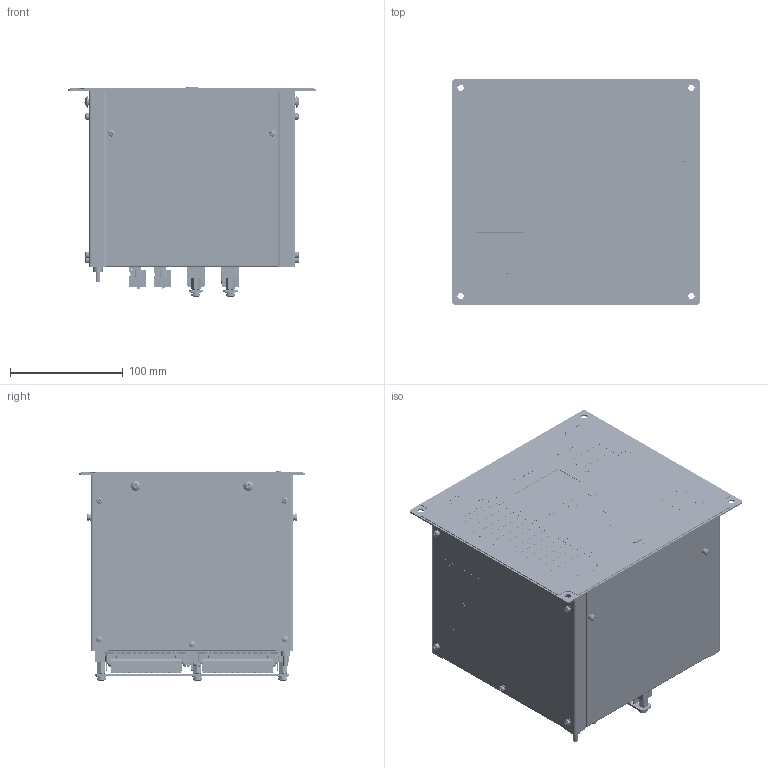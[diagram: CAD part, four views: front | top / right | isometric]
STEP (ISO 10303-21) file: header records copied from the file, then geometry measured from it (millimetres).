
FILE_DESCRIPTION(('STEP AP214'), '1');
FILE_NAME('ﾒﾐﾁﾍ.656122.001 - ﾊﾈﾒ-ﾐ', '', ('UNSPECIFIED'), ('UNSPECIFIED'), 'C3D Converter', 'C3D Toolkit', '');
FILE_SCHEMA(('AUTOMOTIVE_DESIGN { 1 0 10303 214 3 1 1}'));
Length unit declared in the file: millimetre
Products named in the file (71): ТРБН.656122.001; ТРБН.741128.001; ТРБН.745222.001; ТРБН.301732.001; ТРБН.745422.001; ТРБН.301261.001; ТРБН.745512.001; ТРБН.434416.011; ТРБН.754342.001; ТРБН.754342.002; ТРБН.434416.012; ТРБН.754342.002-01; ТРБН.434416.013; ТРБН.754342.002-02; ТРБН.434416.014; ТРБН.754342.001-01; ТРБН.754342.002-05; ТРБН.434416.015; ТРБН.754342.002-06; ТРБН.741134.002; ТРБН.741134.002-01; ТРБН.754312.001; ТРБН.754342.006; 45H-08P; 45H-08P-01; 691317510012; 6913175100xx_PIN; 6913175100xx_INSERT; 691317510004
Assembly tree (142 placements, depth 4):
  ТРБН.656122.001
    (unnamed)
      ТРБН.741128.001
      ТРБН.745222.001  x2
    ТРБН.301732.001  x2
      ТРБН.745422.001
      (unnamed)
      (unnamed)
    ТРБН.301261.001
      ТРБН.745512.001
      (unnamed)  x2
      (unnamed)
    (unnamed)  x2
    (unnamed)  x2
    (unnamed)
    (unnamed)
    (unnamed)  x10
    (unnamed)
    (unnamed)  x3
    (unnamed)  x12
    (unnamed)  x2
    (unnamed)  x4
    (unnamed)  x4
    (unnamed)
    (unnamed)  x2
    (unnamed)
    ТРБН.434416.011
      (unnamed)
      ТРБН.754342.001
      ТРБН.754342.002
    ТРБН.434416.012
      (unnamed)
      ТРБН.754342.001
      ТРБН.754342.002-01
    ТРБН.434416.013
      (unnamed)
      ТРБН.754342.001
      ТРБН.754342.002-02
    ТРБН.434416.014
      (unnamed)
      ТРБН.754342.001-01
      ТРБН.754342.002-05
    ТРБН.434416.015
      (unnamed)
      ТРБН.754342.001-01
      ТРБН.754342.002-06
    ТРБН.741134.002
    ТРБН.741134.002-01
    ТРБН.754312.001
    (unnamed)
    (unnamed)
    (unnamed)
    (unnamed)
    ТРБН.754342.006
    (unnamed)
    (unnamed)
    (unnamed)  x10
    (unnamed)  x2
    (unnamed)
    (unnamed)
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Bounding box: 220 x 200 x 187.02 mm (x, y, z)
Volume: 370527.4 mm3; surface area: 644221.9 mm2
Topology: 260 solids, 260 shells, 32644 faces, 92638 edges, 61110 vertices
Faces by surface type: plane 18983, cylinder 9807, extrusion 2726, torus 668, bspline 304, cone 133, sphere 23
Full cylindrical faces by diameter (mm): 0.405 x8, 0.482 x8, 0.804 x1, 1.371 x1, 1.771 x1, 1.8 x10, 2.459 x6, 2.5 x10, 2.6 x20, 2.75 x36, 3 x14, 3.2 x22, 3.242 x5, 3.3 x36, 3.301 x24, 3.5 x78, 3.85 x10, 4 x46, 4.2 x6, 4.22 x6, 4.3 x4, 4.5 x13, 5 x6, 5.6 x20, 5.7 x4, 6 x15, 6.35 x6, 6.8 x1, 6.992 x24, 7 x24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
Entity records: 1215318 total; most frequent: CARTESIAN_POINT 252019, ORIENTED_EDGE 161322, DIRECTION 143690, EDGE_CURVE 80661, VECTOR 58416, LINE 55690, VERTEX_POINT 53619, AXIS2_PLACEMENT_3D 42637
